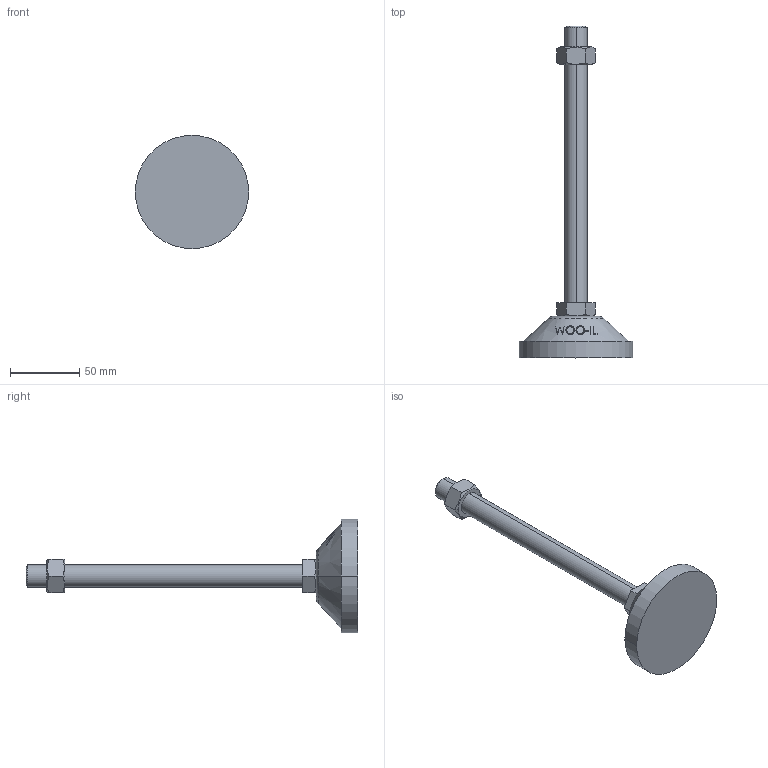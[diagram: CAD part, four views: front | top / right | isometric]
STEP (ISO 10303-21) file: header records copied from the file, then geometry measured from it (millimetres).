
FILE_DESCRIPTION (( 'STEP AP214' ), '1' );
FILE_NAME ('RL82-M16-200.step', '2021-01-06T08:17:58', ( '' ), ( '' ), 'SwSTEP 2.0', 'SolidWorks 2019', '' );
FILE_SCHEMA (( 'AUTOMOTIVE_DESIGN' ));
Length unit declared in the file: millimetre
Products named in the file (1): RL82-M16-200
Bounding box: 82 x 240 x 82 mm (x, y, z)
Volume: 159803.6 mm3; surface area: 28926.2 mm2
Topology: 3 solids, 3 shells, 93 faces, 217 edges, 140 vertices
Faces by surface type: plane 47, cone 22, bspline 16, cylinder 6, torus 2
Entity records: 4223 total; most frequent: CARTESIAN_POINT 2191, ORIENTED_EDGE 434, DIRECTION 349, EDGE_CURVE 217, VERTEX_POINT 140, AXIS2_PLACEMENT_3D 134, EDGE_LOOP 105, ADVANCED_FACE 93
